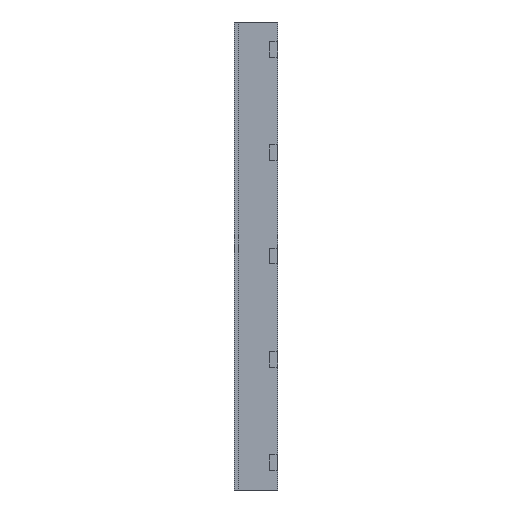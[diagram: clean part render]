
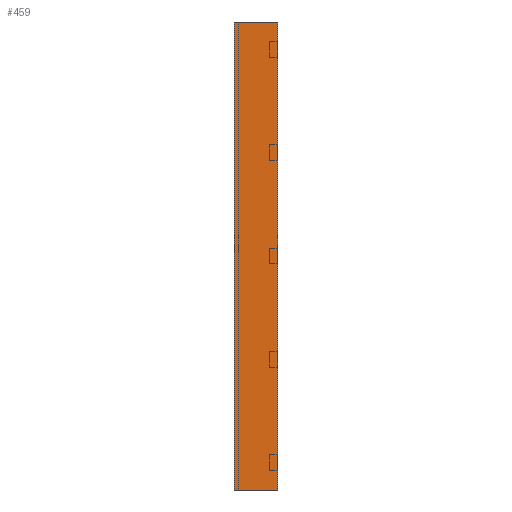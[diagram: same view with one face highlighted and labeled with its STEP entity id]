
A CAD part, left-side view. The second image highlights one B-rep face of the part: STEP entity #459.
In plain terms, the highlighted planar face has unit normal (-1, 0, 0).
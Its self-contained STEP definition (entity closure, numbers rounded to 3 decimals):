
#38 = LINE ( 'NONE', #920, #1220 ) ;
#53 = EDGE_CURVE ( 'NONE', #524, #58, #38, .T. ) ;
#58 = VERTEX_POINT ( 'NONE', #1186 ) ;
#126 = LINE ( 'NONE', #402, #194 ) ;
#136 = CARTESIAN_POINT ( 'NONE',  ( 0., 0., -1200. ) ) ;
#150 = VECTOR ( 'NONE', #327, 1000. ) ;
#194 = VECTOR ( 'NONE', #239, 1000. ) ;
#204 = LINE ( 'NONE', #1379, #1027 ) ;
#239 = DIRECTION ( 'NONE',  ( 0., -1., 0. ) ) ;
#245 = ORIENTED_EDGE ( 'NONE', *, *, #1236, .F. ) ;
#271 = PLANE ( 'NONE',  #646 ) ;
#290 = EDGE_CURVE ( 'NONE', #1031, #524, #980, .T. ) ;
#327 = DIRECTION ( 'NONE',  ( 0., -1., 0. ) ) ;
#388 = DIRECTION ( 'NONE',  ( -1., 0., 0. ) ) ;
#402 = CARTESIAN_POINT ( 'NONE',  ( 0., 0., 0. ) ) ;
#404 = FACE_OUTER_BOUND ( 'NONE', #635, .T. ) ;
#459 = ADVANCED_FACE ( 'NONE', ( #404 ), #271, .T. ) ;
#519 = CARTESIAN_POINT ( 'NONE',  ( 0., 0., -1200. ) ) ;
#524 = VERTEX_POINT ( 'NONE', #519 ) ;
#635 = EDGE_LOOP ( 'NONE', ( #245, #1253, #1141, #1477 ) ) ;
#646 = AXIS2_PLACEMENT_3D ( 'NONE', #136, #388, #809 ) ;
#728 = DIRECTION ( 'NONE',  ( 0., 0., 1. ) ) ;
#782 = CARTESIAN_POINT ( 'NONE',  ( 0., 112.5, -1200. ) ) ;
#789 = DIRECTION ( 'NONE',  ( 0., 0., 1. ) ) ;
#806 = EDGE_CURVE ( 'NONE', #1031, #1123, #204, .T. ) ;
#809 = DIRECTION ( 'NONE',  ( 0., 0., 1. ) ) ;
#920 = CARTESIAN_POINT ( 'NONE',  ( 0., 0., -1200. ) ) ;
#980 = LINE ( 'NONE', #1495, #150 ) ;
#1027 = VECTOR ( 'NONE', #728, 1000. ) ;
#1031 = VERTEX_POINT ( 'NONE', #782 ) ;
#1123 = VERTEX_POINT ( 'NONE', #1571 ) ;
#1141 = ORIENTED_EDGE ( 'NONE', *, *, #290, .T. ) ;
#1186 = CARTESIAN_POINT ( 'NONE',  ( 0., 0., 0. ) ) ;
#1220 = VECTOR ( 'NONE', #789, 1000. ) ;
#1236 = EDGE_CURVE ( 'NONE', #1123, #58, #126, .T. ) ;
#1253 = ORIENTED_EDGE ( 'NONE', *, *, #806, .F. ) ;
#1379 = CARTESIAN_POINT ( 'NONE',  ( 0., 112.5, -1200. ) ) ;
#1477 = ORIENTED_EDGE ( 'NONE', *, *, #53, .T. ) ;
#1495 = CARTESIAN_POINT ( 'NONE',  ( 0., 0., -1200. ) ) ;
#1571 = CARTESIAN_POINT ( 'NONE',  ( 0., 112.5, 0. ) ) ;
